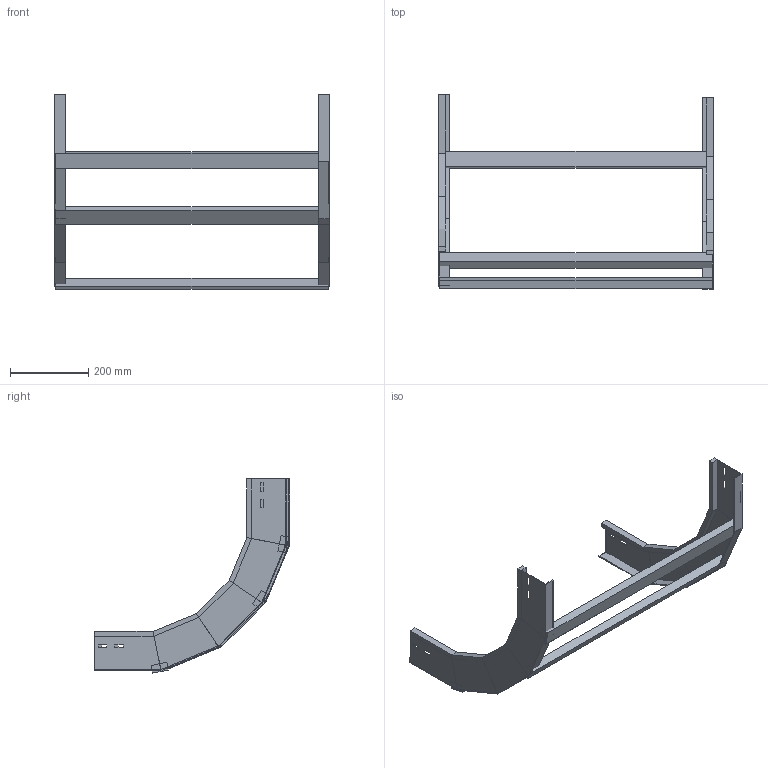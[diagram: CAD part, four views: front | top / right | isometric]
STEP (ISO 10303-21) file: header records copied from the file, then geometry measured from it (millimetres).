
FILE_DESCRIPTION (( 'STEP AP214' ), '1' );
FILE_NAME ('A2X30B3D700XX.step', '2025-04-02T09:03:01', ( '' ), ( '' ), 'SwSTEP 2.0', 'SolidWorks 2023', '' );
FILE_SCHEMA (( 'AUTOMOTIVE_DESIGN' ));
Length unit declared in the file: millimetre
Products named in the file (3): TRAVERSINO_700; LONGH.SALITA_90°_H100_R300; A2X30B3D700XX
Assembly tree (5 placements, depth 2):
  A2X30B3D700XX
    LONGH.SALITA_90°_H100_R300  x2
    TRAVERSINO_700  x3
Bounding box: 700 x 497.32 x 495.32 mm (x, y, z)
Volume: 2319586.2 mm3; surface area: 681553.5 mm2
Topology: 5 solids, 5 shells, 134 faces, 308 edges, 184 vertices
Faces by surface type: plane 134
Entity records: 1864 total; most frequent: CARTESIAN_POINT 308, ORIENTED_EDGE 296, DIRECTION 292, VECTOR 148, EDGE_CURVE 148, LINE 148, VERTEX_POINT 88, AXIS2_PLACEMENT_3D 72
